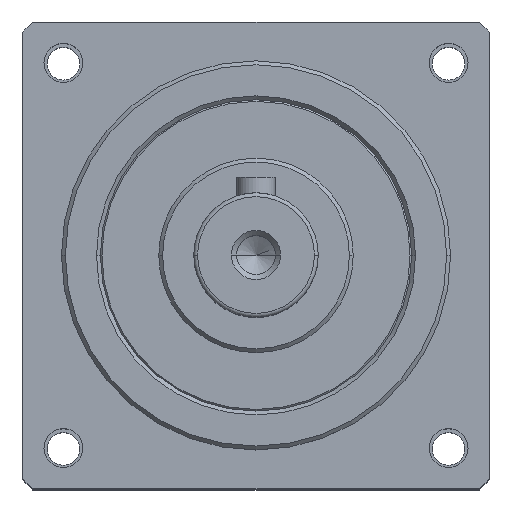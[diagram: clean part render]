
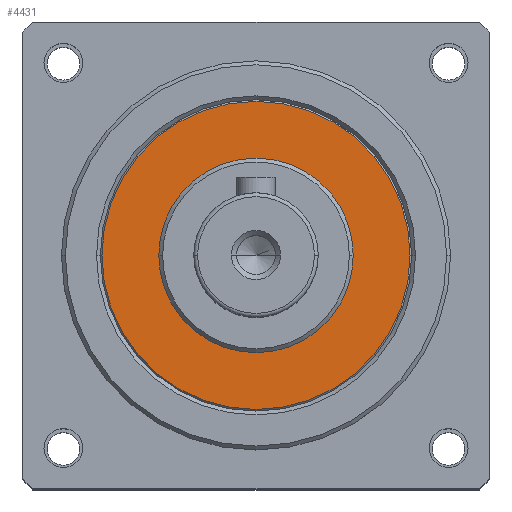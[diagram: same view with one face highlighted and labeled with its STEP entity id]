
A CAD part, top view. The second image highlights one B-rep face of the part: STEP entity #4431.
In plain terms, the highlighted planar face has unit normal (0, 0, 1).
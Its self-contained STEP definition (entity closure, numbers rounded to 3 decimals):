
#24 = DIRECTION ( 'NONE',  ( 1., 0., 0. ) ) ;
#133 = CIRCLE ( 'NONE', #3467, 12.5 ) ;
#149 = FACE_OUTER_BOUND ( 'NONE', #7036, .T. ) ;
#437 = ORIENTED_EDGE ( 'NONE', *, *, #3492, .F. ) ;
#540 = CARTESIAN_POINT ( 'NONE',  ( 30., 30., 82. ) ) ;
#754 = AXIS2_PLACEMENT_3D ( 'NONE', #5943, #5408, #2991 ) ;
#1056 = ORIENTED_EDGE ( 'NONE', *, *, #5616, .T. ) ;
#1111 = DIRECTION ( 'NONE',  ( 1., 0., 0. ) ) ;
#1461 = CARTESIAN_POINT ( 'NONE',  ( 30., 30., 82. ) ) ;
#1741 = CARTESIAN_POINT ( 'NONE',  ( 49.8, 30., 82. ) ) ;
#1978 = CIRCLE ( 'NONE', #6245, 19.8 ) ;
#2005 = DIRECTION ( 'NONE',  ( 1., 0., 0. ) ) ;
#2406 = VERTEX_POINT ( 'NONE', #1741 ) ;
#2950 = CARTESIAN_POINT ( 'NONE',  ( 30., 30., 82. ) ) ;
#2991 = DIRECTION ( 'NONE',  ( 1., 0., 0. ) ) ;
#3162 = AXIS2_PLACEMENT_3D ( 'NONE', #540, #4400, #1111 ) ;
#3286 = DIRECTION ( 'NONE',  ( 0., 0., 1. ) ) ;
#3297 = VERTEX_POINT ( 'NONE', #5890 ) ;
#3363 = ORIENTED_EDGE ( 'NONE', *, *, #5780, .T. ) ;
#3467 = AXIS2_PLACEMENT_3D ( 'NONE', #6687, #3286, #24 ) ;
#3492 = EDGE_CURVE ( 'NONE', #6784, #5756, #4020, .T. ) ;
#3532 = DIRECTION ( 'NONE',  ( 1., 0., 0. ) ) ;
#3808 = AXIS2_PLACEMENT_3D ( 'NONE', #1461, #5369, #2005 ) ;
#3822 = PLANE ( 'NONE',  #3162 ) ;
#3909 = EDGE_LOOP ( 'NONE', ( #437, #6739 ) ) ;
#4020 = CIRCLE ( 'NONE', #754, 12.5 ) ;
#4202 = CARTESIAN_POINT ( 'NONE',  ( 17.5, 30., 82. ) ) ;
#4400 = DIRECTION ( 'NONE',  ( 0., 0., 1. ) ) ;
#4431 = ADVANCED_FACE ( 'NONE', ( #4716, #149 ), #3822, .T. ) ;
#4716 = FACE_BOUND ( 'NONE', #3909, .T. ) ;
#4965 = CARTESIAN_POINT ( 'NONE',  ( 42.5, 30., 82. ) ) ;
#5369 = DIRECTION ( 'NONE',  ( 0., 0., 1. ) ) ;
#5408 = DIRECTION ( 'NONE',  ( 0., 0., 1. ) ) ;
#5466 = EDGE_CURVE ( 'NONE', #5756, #6784, #133, .T. ) ;
#5616 = EDGE_CURVE ( 'NONE', #2406, #3297, #1978, .T. ) ;
#5756 = VERTEX_POINT ( 'NONE', #4202 ) ;
#5780 = EDGE_CURVE ( 'NONE', #3297, #2406, #6224, .T. ) ;
#5890 = CARTESIAN_POINT ( 'NONE',  ( 10.2, 30., 82. ) ) ;
#5943 = CARTESIAN_POINT ( 'NONE',  ( 30., 30., 82. ) ) ;
#6224 = CIRCLE ( 'NONE', #3808, 19.8 ) ;
#6245 = AXIS2_PLACEMENT_3D ( 'NONE', #2950, #6916, #3532 ) ;
#6687 = CARTESIAN_POINT ( 'NONE',  ( 30., 30., 82. ) ) ;
#6739 = ORIENTED_EDGE ( 'NONE', *, *, #5466, .F. ) ;
#6784 = VERTEX_POINT ( 'NONE', #4965 ) ;
#6916 = DIRECTION ( 'NONE',  ( 0., 0., 1. ) ) ;
#7036 = EDGE_LOOP ( 'NONE', ( #3363, #1056 ) ) ;
